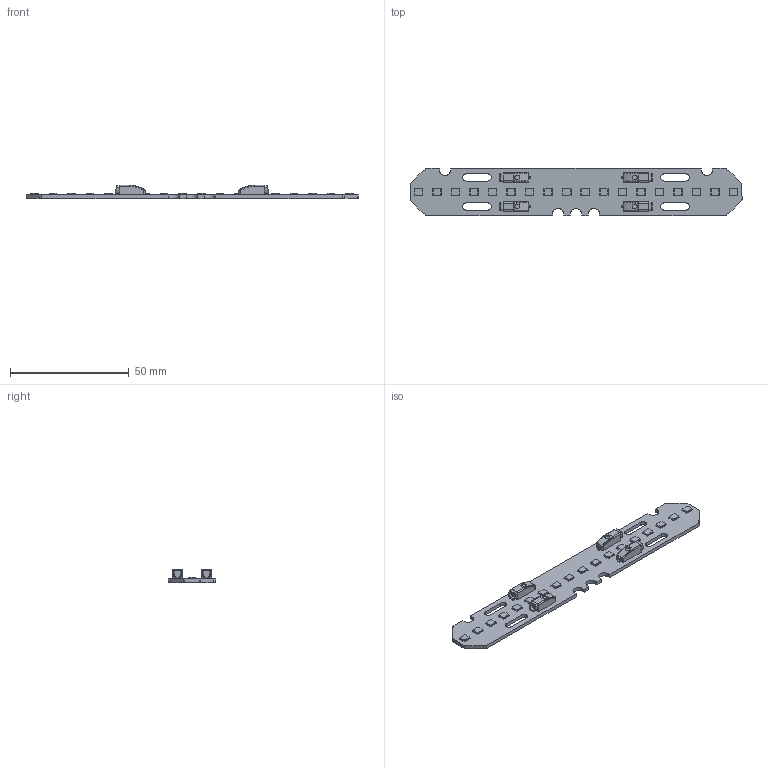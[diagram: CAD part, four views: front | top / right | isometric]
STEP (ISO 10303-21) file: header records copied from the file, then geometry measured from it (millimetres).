
FILE_DESCRIPTION (( 'STEP AP214' ), '1' );
FILE_NAME ('4162922swm000.step', '2020-02-14T15:19:50', ( 'OSRAM' ), ( 'OSRAM' ), 'SwSTEP 2.0', 'SolidWorks 2017', '' );
FILE_SCHEMA (( 'AUTOMOTIVE_DESIGN' ));
Length unit declared in the file: millimetre
Products named in the file (4): 3792700swm000; 4162925swm000; 3754662swm000; 4162922swm000
Assembly tree (6 placements, depth 2):
  4162922swm000
    3754662swm000
    4162925swm000
    3792700swm000  x4
Bounding box: 139.5 x 20 x 5.55 mm (x, y, z)
Volume: 4743.1 mm3; surface area: 7066.3 mm2
Topology: 23 solids, 23 shells, 804 faces, 2080 edges, 1352 vertices
Faces by surface type: plane 523, cylinder 161, bspline 112, cone 8
Entity records: 18943 total; most frequent: CARTESIAN_POINT 3506, ORIENTED_EDGE 2424, DIRECTION 2103, EDGE_CURVE 1212, LINE 1015, VECTOR 1015, VERTEX_POINT 800, AXIS2_PLACEMENT_3D 544
